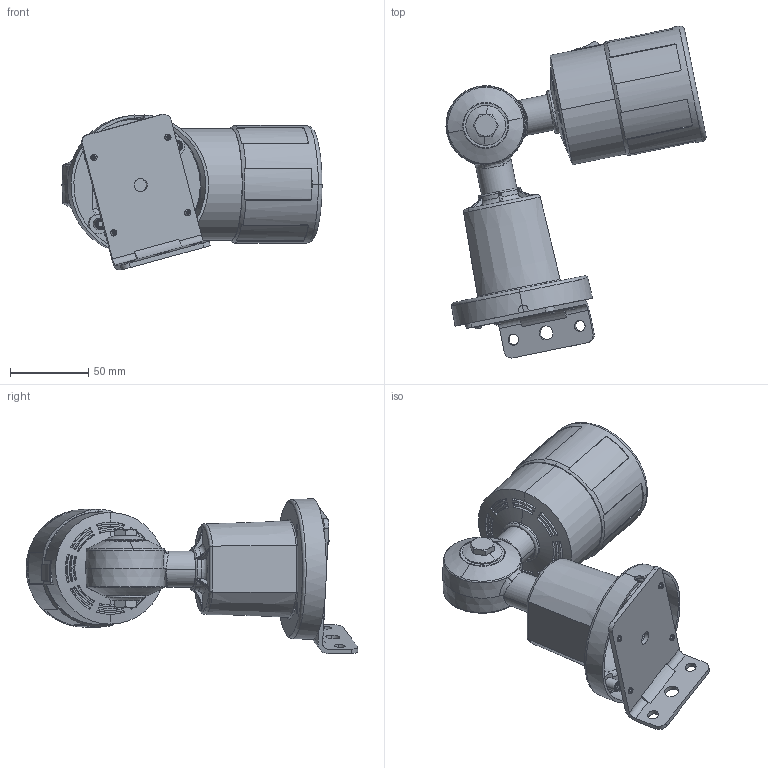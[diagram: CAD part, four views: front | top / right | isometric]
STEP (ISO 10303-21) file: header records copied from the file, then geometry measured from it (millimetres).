
FILE_DESCRIPTION((''),'2;1');
FILE_NAME('THL07-1S','2016-09-30T',('ABS'),(''),'PRO/ENGINEER BY PARAMETRIC TECHNOLOGY CORPORATION, 2012360','PRO/ENGINEER BY PARAMETRIC TECHNOLOGY CORPORATION, 2012360','');
FILE_SCHEMA(('CONFIG_CONTROL_DESIGN'));
Length unit declared in the file: inch
Products named in the file (1): THL07-1S
Bounding box: 166.51 x 212.44 x 99.39 mm (x, y, z)
Volume: 373007.7 mm3; surface area: 136626.8 mm2
Topology: 1 solids, 8 shells, 1029 faces, 2993 edges, 1998 vertices
Faces by surface type: plane 393, cylinder 377, bspline 108, torus 80, cone 50, sphere 20, extrusion 1
Entity records: 45647 total; most frequent: CARTESIAN_POINT 19101, ORIENTED_EDGE 5966, DIRECTION 5129, EDGE_CURVE 2983, VERTEX_POINT 1998, AXIS2_PLACEMENT_3D 1987, VECTOR 1155, LINE 1154
